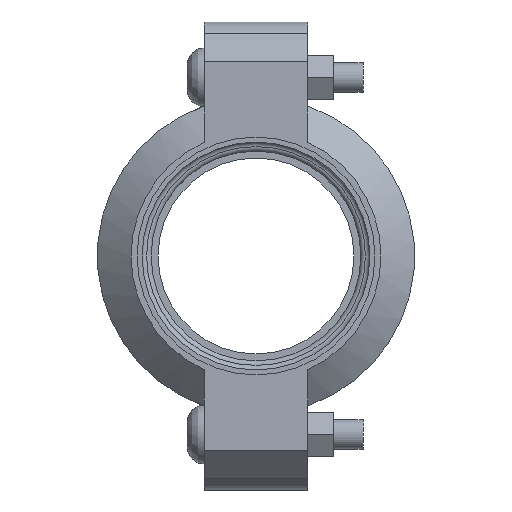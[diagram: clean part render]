
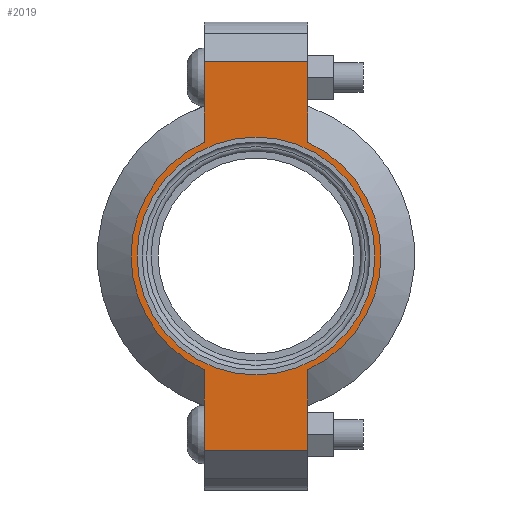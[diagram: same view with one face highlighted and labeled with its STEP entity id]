
A CAD part, left-side view. The second image highlights one B-rep face of the part: STEP entity #2019.
In plain terms, the highlighted planar face has unit normal (-1, 0, 0) as drawn and (0, 0, 1) by its records, which use the part's own axes.
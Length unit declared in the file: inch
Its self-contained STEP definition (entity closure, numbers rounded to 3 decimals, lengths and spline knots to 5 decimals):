
#134=LINE('',#3616,#235);
#147=LINE('',#3660,#248);
#152=LINE('',#3684,#253);
#159=LINE('',#3702,#260);
#166=LINE('',#3727,#267);
#167=LINE('',#3730,#268);
#235=VECTOR('',#2944,0.3937);
#248=VECTOR('',#2973,0.3937);
#253=VECTOR('',#2984,0.3937);
#260=VECTOR('',#3001,0.3937);
#267=VECTOR('',#3022,0.3937);
#268=VECTOR('',#3027,0.3937);
#324=FACE_BOUND('',#594,.T.);
#370=PLANE('',#2386);
#467=FACE_OUTER_BOUND('',#593,.T.);
#593=EDGE_LOOP('',(#1762,#1763,#1764,#1765,#1766,#1767,#1768,#1769));
#594=EDGE_LOOP('',(#1770));
#738=CIRCLE('',#2324,1.5);
#766=CIRCLE('',#2387,1.575);
#767=CIRCLE('',#2388,1.575);
#889=VERTEX_POINT('',#3404);
#932=VERTEX_POINT('',#3611);
#933=VERTEX_POINT('',#3615);
#949=VERTEX_POINT('',#3657);
#950=VERTEX_POINT('',#3659);
#956=VERTEX_POINT('',#3679);
#957=VERTEX_POINT('',#3683);
#962=VERTEX_POINT('',#3699);
#963=VERTEX_POINT('',#3701);
#1128=EDGE_CURVE('',#889,#889,#738,.T.);
#1190=EDGE_CURVE('',#933,#932,#134,.T.);
#1210=EDGE_CURVE('',#950,#949,#147,.T.);
#1219=EDGE_CURVE('',#957,#956,#152,.T.);
#1228=EDGE_CURVE('',#963,#962,#159,.T.);
#1240=EDGE_CURVE('',#957,#949,#166,.T.);
#1241=EDGE_CURVE('',#956,#963,#766,.T.);
#1242=EDGE_CURVE('',#933,#962,#167,.T.);
#1243=EDGE_CURVE('',#932,#950,#767,.T.);
#1762=ORIENTED_EDGE('',*,*,#1240,.F.);
#1763=ORIENTED_EDGE('',*,*,#1219,.T.);
#1764=ORIENTED_EDGE('',*,*,#1241,.T.);
#1765=ORIENTED_EDGE('',*,*,#1228,.T.);
#1766=ORIENTED_EDGE('',*,*,#1242,.F.);
#1767=ORIENTED_EDGE('',*,*,#1190,.T.);
#1768=ORIENTED_EDGE('',*,*,#1243,.T.);
#1769=ORIENTED_EDGE('',*,*,#1210,.T.);
#1770=ORIENTED_EDGE('',*,*,#1128,.T.);
#2019=ADVANCED_FACE('',(#467,#324),#370,.T.);
#2324=AXIS2_PLACEMENT_3D('',#3406,#2824,#2825);
#2386=AXIS2_PLACEMENT_3D('',#3728,#3023,#3024);
#2387=AXIS2_PLACEMENT_3D('',#3729,#3025,#3026);
#2388=AXIS2_PLACEMENT_3D('',#3731,#3028,#3029);
#2824=DIRECTION('center_axis',(0.,0.,-1.));
#2825=DIRECTION('ref_axis',(1.,0.,0.));
#2944=DIRECTION('',(1.,0.,0.));
#2973=DIRECTION('',(1.,0.,0.));
#2984=DIRECTION('',(-1.,0.,0.));
#3001=DIRECTION('',(-1.,0.,0.));
#3022=DIRECTION('',(0.,-1.,0.));
#3023=DIRECTION('center_axis',(0.,0.,1.));
#3024=DIRECTION('ref_axis',(-1.,0.,0.));
#3025=DIRECTION('center_axis',(0.,0.,1.));
#3026=DIRECTION('ref_axis',(1.,0.,0.));
#3027=DIRECTION('',(0.,1.,0.));
#3028=DIRECTION('center_axis',(0.,0.,1.));
#3029=DIRECTION('ref_axis',(1.,0.,0.));
#3404=CARTESIAN_POINT('',(-1.5,0.,0.94));
#3406=CARTESIAN_POINT('Origin',(0.,0.,0.94));
#3611=CARTESIAN_POINT('',(-1.43462,-0.65,0.94));
#3615=CARTESIAN_POINT('',(-2.45,-0.65,0.94));
#3616=CARTESIAN_POINT('',(2.95,-0.65,0.94));
#3657=CARTESIAN_POINT('',(2.45,-0.65,0.94));
#3659=CARTESIAN_POINT('',(1.43462,-0.65,0.94));
#3660=CARTESIAN_POINT('',(2.95,-0.65,0.94));
#3679=CARTESIAN_POINT('',(1.43462,0.65,0.94));
#3683=CARTESIAN_POINT('',(2.45,0.65,0.94));
#3684=CARTESIAN_POINT('',(-2.95,0.65,0.94));
#3699=CARTESIAN_POINT('',(-2.45,0.65,0.94));
#3701=CARTESIAN_POINT('',(-1.43462,0.65,0.94));
#3702=CARTESIAN_POINT('',(-2.95,0.65,0.94));
#3727=CARTESIAN_POINT('',(2.45,-0.325,0.94));
#3728=CARTESIAN_POINT('Origin',(0.,0.,
0.94));
#3729=CARTESIAN_POINT('Origin',(0.,0.,0.94));
#3730=CARTESIAN_POINT('',(-2.45,0.325,0.94));
#3731=CARTESIAN_POINT('Origin',(0.,0.,0.94));
